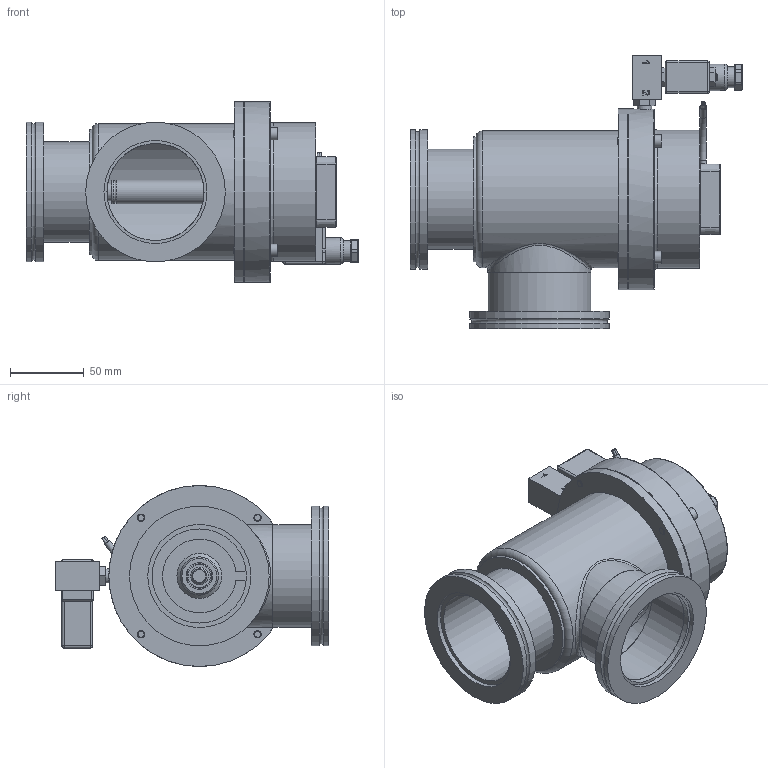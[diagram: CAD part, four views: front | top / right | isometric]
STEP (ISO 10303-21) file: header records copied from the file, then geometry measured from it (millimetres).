
FILE_DESCRIPTION(/* description */ (''),/* implementation_level */ '2;1');
FILE_NAME(/* name */ '1079538027_203.stp',/* time_stamp */ '2013-07-25T08:39:54+02:00',/* author */ (''),/* organization */ (''),/* preprocessor_version */ 'ST-DEVELOPER v11',/* originating_system */ 'SIEMENS PLM Software NX 7.5',/* authorisation */ '');
FILE_SCHEMA (('AP203_CONFIGURATION_CONTROLLED_3D_DESIGN_OF_MECHANICAL_PARTS_AND_ASSEMBLIES_MIM_LF'));
Length unit declared in the file: millimetre
Products named in the file (22): 467863; 467864; 559132; 547308_17876ID; 547290; 521644; 547368_19887ID; 421306; 233359; 236204_1.1; n-7604-110; 326371.1; 254383; 243267.7; 259415.2; N-6013-443.2; 224796.1; 547281_MODEL; 421285; n-8501-300_MODELNX-ARRAGMNTArrangement 1; 81737-R1.4_NX-ARRAGMNTMASSBILD; 704079
Assembly tree (26 placements, depth 4):
  704079
    224796.1  x4
    81737-R1.4_NX-ARRAGMNTMASSBILD
      326371.1
      n-7604-110
      n-8501-300_MODELNX-ARRAGMNTArrangement 1
        467864
        467863
    N-6013-443.2  x2
    259415.2
    243267.7
    254383
    421285
      236204_1.1  x2
      233359
      421306
    547281_MODEL
      547368_19887ID
      521644
      547290
      547308_17876ID
      559132
Bounding box: 225.65 x 186 x 123 mm (x, y, z)
Volume: 503566.9 mm3; surface area: 253574.9 mm2
Topology: 30 solids, 30 shells, 802 faces, 1935 edges, 1248 vertices
Faces by surface type: plane 455, cylinder 193, cone 70, torus 39, bspline 23, sphere 12, extrusion 10
Full cylindrical faces by diameter (mm): 1.4 x4, 3 x8, 3.1 x1, 3.3 x2, 4 x3, 4.16 x4, 4.2 x8, 4.5 x4, 4.6 x1, 4.7 x2, 5 x9, 5.5 x5, 5.6 x2, 7 x1, 7.4 x1, 7.5 x2, 8 x1, 8.5 x5, 8.611 x1, 9 x2, 9.728 x2, 10.1 x1, 12 x1, 14 x1, 15.975 x3, 16.5 x2, 18 x1, 18.009 x1, 20.45 x1, 26 x1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
Entity records: 25734 total; most frequent: CARTESIAN_POINT 5839, DIRECTION 3230, ORIENTED_EDGE 3048, EDGE_CURVE 1524, AXIS2_PLACEMENT_3D 1179, VERTEX_POINT 1082, EDGE_LOOP 1004, VECTOR 872
